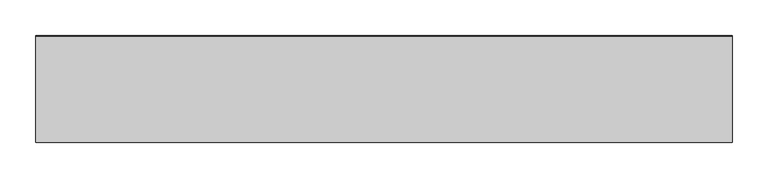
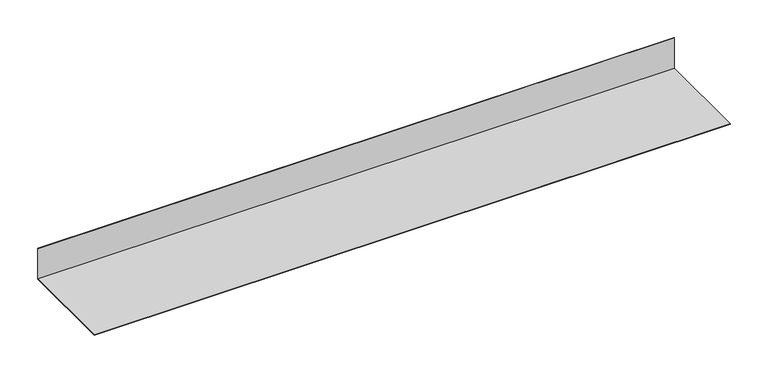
"""IFC4 building model written with IfcOpenShell, lengths in millimetres: proxy geometry, Оцинкованный уголок : 150х50х0.8."""

from ifc_helpers import new_model, si_unit, frame, origin, place, context, project, spatial, polyline, outline, extrude, source, transform, mapped, element, save


def generic_models_60c2d6ae(model_context):
    return source(origin(), model_context, "Body", "SweptSolid", [
        extrude(outline(polyline([(0.0, 50.0), (0.0, 0.0), (-150.0, 0.0), (-150.0, 0.8), (-0.8, 0.8), (-0.8, 50.0), (0.0, 50.0)])), frame((0.0, 0.0, 0.0), z_axis=(1.0, 0.0, 0.0), x_axis=(0.0, 1.0, 0.0)), (0.0, 0.0, 1.0), 977.0),
    ])


if __name__ == "__main__":
    model = new_model("IFC4")
    model_context = context("Model", 3, world=origin())
    ifc_project = project(units=[si_unit("LENGTHUNIT", "METRE", prefix="MILLI")], contexts=[model_context])
    site = spatial("IfcSite", under=ifc_project)
    building = spatial("IfcBuilding", under=site)
    placement = place(None, origin())
    generic_models_shape = generic_models_60c2d6ae(model_context)
    element("IfcBuildingElementProxy", 1, Name="Оцинкованный уголок : 150х50х0.8", ObjectType="Оцинкованный уголок : 150х50х0.8", at=placement, inside=building, context=model_context, shape_type="MappedRepresentation", body=[
        mapped(generic_models_shape, transform((0.0, 0.0, 0.0), x_axis=(1.0, 0.0, 0.0), y_axis=(0.0, 1.0, 0.0), z_axis=(0.0, 0.0, 1.0))),
    ])
    save(model, "model.ifc")
